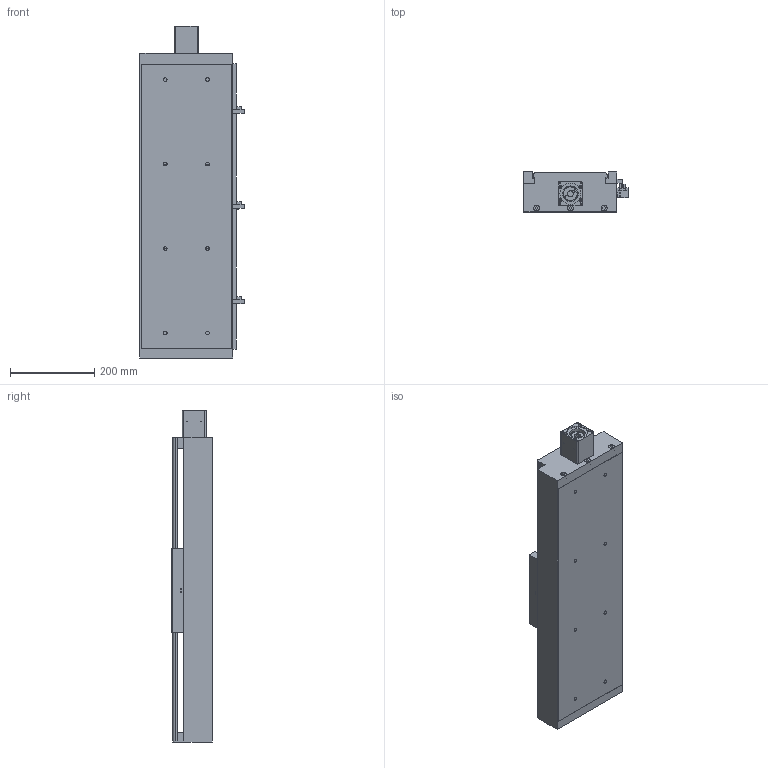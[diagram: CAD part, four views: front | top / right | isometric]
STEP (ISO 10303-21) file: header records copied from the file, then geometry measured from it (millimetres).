
FILE_DESCRIPTION((''),'2;1');
FILE_NAME('E:\libraries\UIA actuator library 2016\standard actuator\UIA220R20NDC\UIA220R20NDC ball screw 20\UIA220R20NDC-_ _ _-R20_ _ stp file, 01May16\UIA220R20NDC-450-R20_ _-M60-P13-C10-S.stp','2016-04-29T15:14:42',('h029'),(''),'Autodesk Inventor 11','Autodesk Inventor 11','');
FILE_SCHEMA(('AUTOMOTIVE_DESIGN { 1 0 10303 214 1 1 1 1 }'));
Length unit declared in the file: millimetre
Products named in the file (10): UIA220R20NDC-450-R20_ _; UIA220R20NDC-body; 41-100 0010 CARRIAGE; sensor rail; Sensor Switch; motor mount M60; SOH-32C; SOH-32C-3; SOH-32C-1; SOH-32C-2
Assembly tree (9 placements, depth 3):
  UIA220R20NDC-450-R20_ _
    UIA220R20NDC-body
    41-100 0010 CARRIAGE
    sensor rail
    Sensor Switch
    motor mount M60
    SOH-32C
      SOH-32C-3
      SOH-32C-1
      SOH-32C-2
Bounding box: 246.5 x 96 x 786 mm (x, y, z)
Volume: 4992517.4 mm3; surface area: 1133737.6 mm2
Topology: 8 solids, 8 shells, 512 faces, 1366 edges, 898 vertices
Faces by surface type: plane 341, bspline 121, cylinder 48, cone 2
Full cylindrical faces by diameter (mm): 3.242 x2, 4.5 x2, 7 x4, 7.5 x2, 12 x2, 13.8 x3, 14 x4, 15 x1, 32 x3, 37 x1, 46.9 x1, 47.1 x1
Entity records: 16726 total; most frequent: CARTESIAN_POINT 4732, ORIENTED_EDGE 2330, DIRECTION 2281, EDGE_CURVE 1165, VECTOR 849, LINE 849, VERTEX_POINT 824, EDGE_LOOP 743
